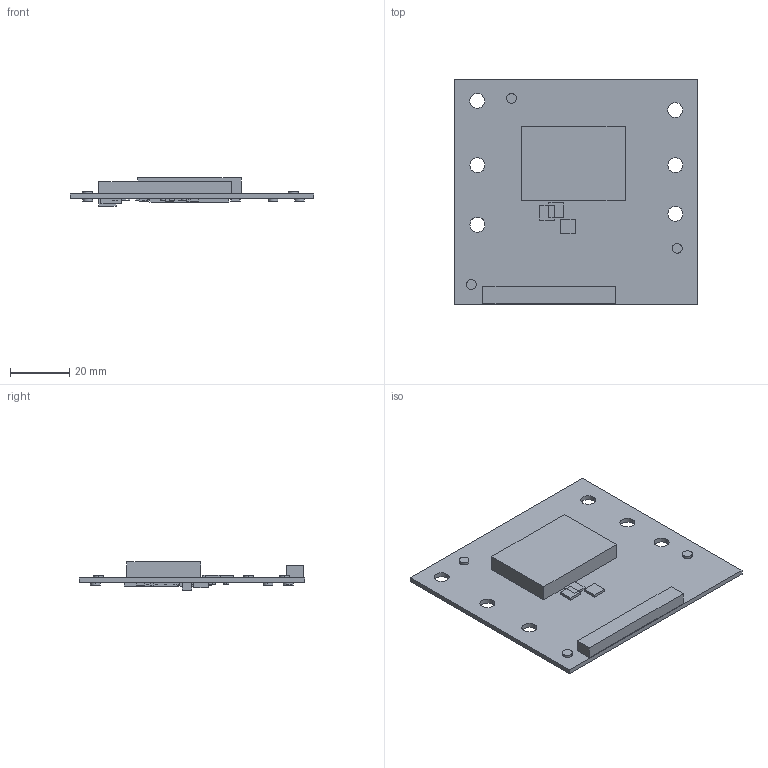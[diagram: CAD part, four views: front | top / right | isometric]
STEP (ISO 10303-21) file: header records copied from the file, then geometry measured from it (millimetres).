
FILE_DESCRIPTION(/* description */ ('PCB Design'),/* implementation_level */ '2;1');
FILE_NAME(/* name */ 'DVH2_P46_DMD_Board_PD23_0815_PCB_081023',/* time_stamp */ '2023-12-20T15:02:21-06:00',/* author */ ('a0227197'),/* organization */ (''),/* preprocessor_version */ 'ST-DEVELOPER v16',/* originating_system */ 'allegro_17.4S029',/* authorisation */ '');
FILE_SCHEMA (('AUTOMOTIVE_DESIGN { 1 0 10303 214 3 1 1 }'));
Length unit declared in the file: millimetre
Products named in the file (12): DVH2_P46_DMD_BOARD_PD23_0815_PCB_081023; BOARD_OUTLINE; COMPONENTS; SKT_2518197; TP141H91; SOIC8-DGK_TI; SOIC8; CONN80-ZIF-FFC-505110_MLX; 0603; 0402; ACD_ASSY_SM; FID50_SYM
Assembly tree (49 placements, depth 3):
  DVH2_P46_DMD_BOARD_PD23_0815_PCB_081023
    BOARD_OUTLINE
    COMPONENTS
      SKT_2518197
      TP141H91  x3
      SOIC8-DGK_TI
      SOIC8
      CONN80-ZIF-FFC-505110_MLX
      0603  x11
      0402  x22
      ACD_ASSY_SM
      FID50_SYM  x6
Bounding box: 82 x 76 x 9.51 mm (x, y, z)
Surface area: 18722.2 mm2 (no closed solid volume)
Topology: 0 solids, 52 shells, 318 faces, 706 edges, 428 vertices
Faces by surface type: plane 276, cylinder 42
Entity records: 3189 total; most frequent: ORIENTED_EDGE 408, CARTESIAN_POINT 316, DIRECTION 309, AXIS2_PLACEMENT_3D 246, EDGE_CURVE 228, VERTEX_POINT 184, VECTOR 172, LINE 172
